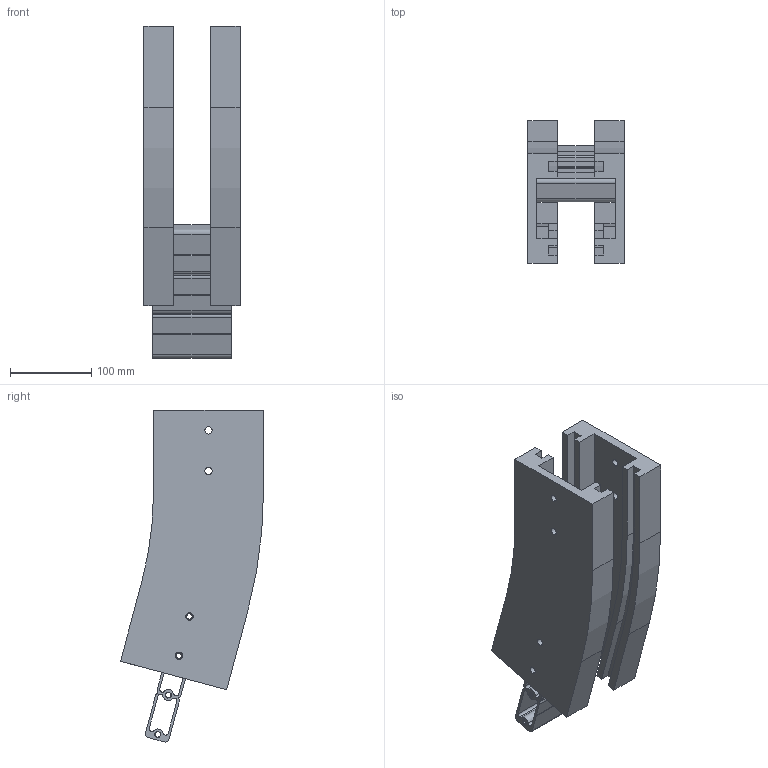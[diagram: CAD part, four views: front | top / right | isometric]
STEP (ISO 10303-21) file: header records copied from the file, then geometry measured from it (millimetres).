
FILE_DESCRIPTION (( 'STEP AP203' ), '1' );
FILE_NAME ('R3CV500-15.STEP', '2009-01-13T08:22:03', ( 'faber' ), ( '' ), 'SwSTEP 2.0', 'SolidWorks 2008', '' );
FILE_SCHEMA (( 'CONFIG_CONTROL_DESIGN' ));
Length unit declared in the file: millimetre
Products named in the file (1): R3CV500-15
Bounding box: 118 x 175.62 x 407.71 mm (x, y, z)
Surface area: 354093.8 mm2 (no closed solid volume)
Topology: 0 solids, 3 shells, 196 faces, 774 edges, 564 vertices
Faces by surface type: plane 105, cylinder 91
Entity records: 8313 total; most frequent: CARTESIAN_POINT 1535, DIRECTION 1444, ORIENTED_EDGE 1324, EDGE_CURVE 774, VERTEX_POINT 564, LINE 498, VECTOR 498, AXIS2_PLACEMENT_3D 473
